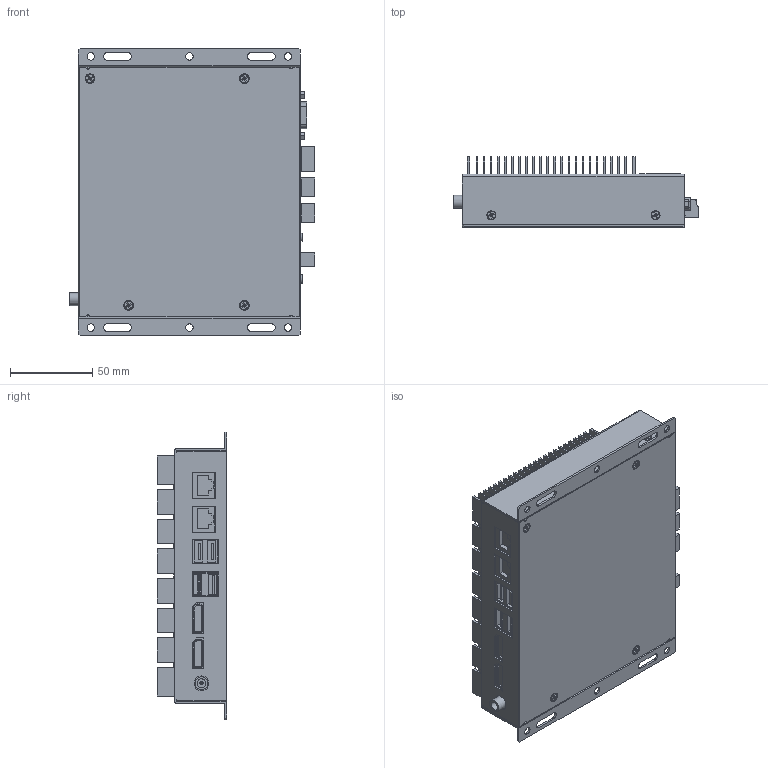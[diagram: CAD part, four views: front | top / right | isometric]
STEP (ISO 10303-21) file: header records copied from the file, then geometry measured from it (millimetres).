
FILE_DESCRIPTION (( 'STEP AP214' ), '1' );
FILE_NAME ('CPCV6-BOXPC-S1_ASM.STEP', '2023-12-21T07:20:52', ( '' ), ( '' ), 'SwSTEP 2.0', 'SolidWorks 2020', '' );
FILE_SCHEMA (( 'AUTOMOTIVE_DESIGN' ));
Length unit declared in the file: millimetre
Products named in the file (1): CPCV6-BOXPC-S1_ASM
Bounding box: 149.24 x 42.5 x 175 mm (x, y, z)
Volume: 621624.6 mm3; surface area: 224415.7 mm2
Topology: 1 solids, 30 shells, 2672 faces, 7030 edges, 4594 vertices
Faces by surface type: plane 2199, cylinder 372, cone 53, torus 48
Full cylindrical faces by diameter (mm): 1 x21, 2 x1, 2.286 x2, 2.5 x1, 2.8 x12, 3 x5, 3.4 x6, 3.6 x1, 4.5 x6, 5 x5, 5.4 x1, 6.5 x1, 7.5 x1, 7.8 x1, 9 x1
Entity records: 80590 total; most frequent: CARTESIAN_POINT 14725, ORIENTED_EDGE 13772, DIRECTION 12796, EDGE_CURVE 6886, VECTOR 5978, LINE 5978, VERTEX_POINT 4546, AXIS2_PLACEMENT_3D 3409
